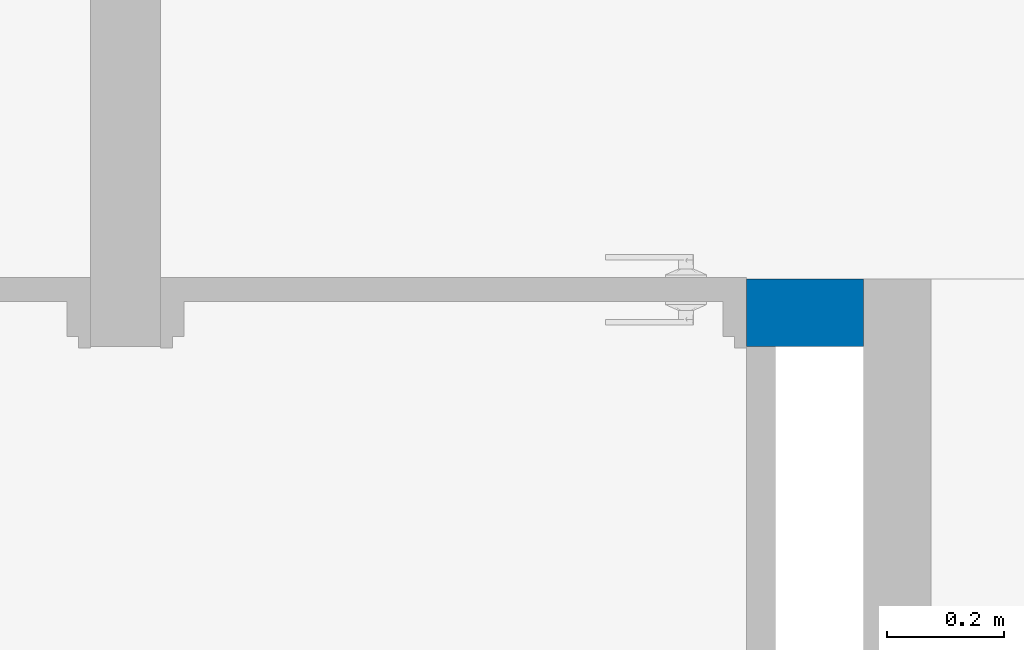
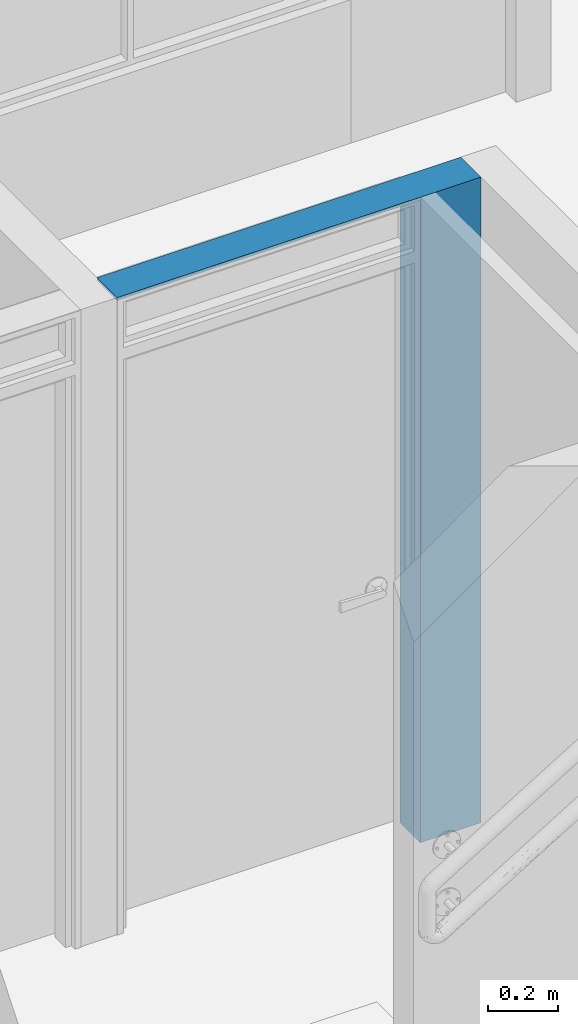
# One storey, part 34 of 51: 1 wall, 1 opening.
"""IFC4 building model written with IfcOpenShell, lengths in metres."""

import ifcopenshell
import ifcopenshell.guid

model = None  # the IFC model being written
_history = None  # IfcOwnerHistory: only IFC2X3 demands one
_inside = {}  # id of a spatial element -> (the spatial element, [elements in it])
_under = {}  # id of a project, library or spatial element -> (it, [spatial elements below it])
_declared = {}  # id of a project -> (the project, [libraries it declares])
_typed = {}  # id of a type object -> (the type object, [elements of that type])
_made_of = {}  # id of a material, layer set ... -> (it, [elements and type objects made of it])


def new_model(schema):
    """Start an empty IFC model of exactly this schema.

    Asked for "IFC4X3", IfcOpenShell would pick the latest addendum, in which some entities
    have other attributes; the version numbers below select the first issue.
    IFC2X3 requires an IfcOwnerHistory on every rooted entity: one is made here for all.
    """
    global model, _history
    if schema == "IFC4X3":
        model = ifcopenshell.file(schema_version=(4, 3, 0, 0))
    else:
        model = ifcopenshell.file(schema=schema)
    _inside.clear()
    _under.clear()
    _declared.clear()
    _typed.clear()
    _made_of.clear()
    _history = None
    if model.schema == "IFC2X3":
        org = make("IfcOrganization", Name="unknown")
        user = make(
            "IfcPersonAndOrganization",
            ThePerson=make("IfcPerson", FamilyName="unknown"),
            TheOrganization=org,
        )
        app = make(
            "IfcApplication",
            ApplicationDeveloper=org,
            Version="unknown",
            ApplicationFullName="unknown",
            ApplicationIdentifier="unknown",
        )
        _history = make(
            "IfcOwnerHistory",
            OwningUser=user,
            OwningApplication=app,
            ChangeAction="ADDED",
            CreationDate=0,
        )
    return model


def make(cls, **values):
    """One entity of the class cls with the attributes given. An attribute that is None is left unset."""
    return model.create_entity(
        cls, **{name: value for name, value in values.items() if value is not None}
    )


def entity(cls, *values):
    """Any entity or typed value of the class cls, its attributes in the order of the schema. None: left unset."""
    e = model.create_entity(cls)
    for i, value in enumerate(values):
        if value is not None:
            e[i] = value
    return e


def rooted(cls, **values):
    """An entity with a GlobalId (a new one), such as an element, a storey or a relation."""
    return make(cls, GlobalId=ifcopenshell.guid.new(), OwnerHistory=_history, **values)


def si_unit(unit_type, name, prefix=None):
    """IfcSIUnit, for example si_unit("LENGTHUNIT", "METRE", prefix="MILLI")."""
    return make("IfcSIUnit", UnitType=unit_type, Prefix=prefix, Name=name)


def converted_unit(unit_type, name, factor, base, dimensions=None, offset=None):
    """IfcConversionBasedUnit, such as the inch: factor (a typed value) times the base unit."""
    return make(
        "IfcConversionBasedUnit"
        if offset is None
        else "IfcConversionBasedUnitWithOffset",
        ConversionOffset=offset,
        Dimensions=None
        if dimensions is None
        else entity("IfcDimensionalExponents", *dimensions),
        UnitType=unit_type,
        Name=name,
        ConversionFactor=make(
            "IfcMeasureWithUnit", ValueComponent=factor, UnitComponent=base
        ),
    )


def derived_unit(unit_type, elements):
    """IfcDerivedUnit: a product of units, each with its exponent."""
    return make(
        "IfcDerivedUnit",
        Elements=[
            make("IfcDerivedUnitElement", Unit=unit, Exponent=power)
            for unit, power in elements
        ],
        UnitType=unit_type,
    )


def assignment(units):
    """IfcUnitAssignment: the units of a project."""
    return None if units is None else make("IfcUnitAssignment", Units=units)


def point(xyz):
    """IfcCartesianPoint."""
    return None if xyz is None else make("IfcCartesianPoint", Coordinates=xyz)


def direction(xyz):
    """IfcDirection."""
    return None if xyz is None else make("IfcDirection", DirectionRatios=xyz)


def frame(location, z_axis=None, x_axis=None):
    """IfcAxis2Placement3D, a coordinate frame: its origin and axes. An axis left out is left unset."""
    return make(
        "IfcAxis2Placement3D",
        Location=point(location),
        Axis=direction(z_axis),
        RefDirection=direction(x_axis),
    )


def origin():
    """The frame at (0, 0, 0) with its axes left unset."""
    return frame((0.0, 0.0, 0.0))


def place(relative_to, where):
    """IfcLocalPlacement: puts the frame where relative to a parent placement (None: the world)."""
    return make(
        "IfcLocalPlacement", PlacementRelTo=relative_to, RelativePlacement=where
    )


def context(
    kind, dimensions, precision=None, world=None, true_north=None, identifier=None
):
    """IfcGeometricRepresentationContext, for example the 3D "Model" context."""
    return make(
        "IfcGeometricRepresentationContext",
        ContextIdentifier=identifier,
        ContextType=kind,
        CoordinateSpaceDimension=dimensions,
        Precision=precision,
        WorldCoordinateSystem=world,
        TrueNorth=true_north,
    )


def subcontext(parent, identifier, kind, view, scale=None):
    """IfcGeometricRepresentationSubContext, for example "Body" below "Model"."""
    return make(
        "IfcGeometricRepresentationSubContext",
        ContextIdentifier=identifier,
        ContextType=kind,
        ParentContext=parent,
        TargetScale=scale,
        TargetView=view,
    )


def project(units=None, contexts=None):
    """IfcProject with its units and contexts."""
    return rooted(
        "IfcProject",
        Name="project",
        RepresentationContexts=contexts,
        UnitsInContext=assignment(units),
    )


def spatial(cls, under=None, at=None, **own):
    """A site, building, storey or space (cls), placed at a placement, below another one or the project."""
    s = rooted(cls, ObjectPlacement=at, **own)
    if under is not None:
        _under.setdefault(under.id(), (under, []))[1].append(s)
    return s


def point_list(points):
    """IfcCartesianPointList2D or 3D."""
    cls = (
        "IfcCartesianPointList2D" if len(points[0]) == 2 else "IfcCartesianPointList3D"
    )
    return make(cls, CoordList=points)


def indexed_curve(points, segments=None, self_intersect=None):
    """IfcIndexedPolyCurve: lines and arcs through numbered points (the first is 1)."""
    return make(
        "IfcIndexedPolyCurve",
        Points=point_list(points),
        Segments=segments,
        SelfIntersect=self_intersect,
    )


def outline(outer, holes=None, kind="AREA"):
    """IfcArbitraryClosedProfileDef: a profile drawn as a closed curve; with holes, ...WithVoids."""
    if holes is None:
        return make("IfcArbitraryClosedProfileDef", ProfileType=kind, OuterCurve=outer)
    return make(
        "IfcArbitraryProfileDefWithVoids",
        ProfileType=kind,
        OuterCurve=outer,
        InnerCurves=holes,
    )


def extrude(swept, where, along, depth):
    """IfcExtrudedAreaSolid: the profile swept, set in the frame where, extruded along a direction by depth."""
    return make(
        "IfcExtrudedAreaSolid",
        SweptArea=swept,
        Position=where,
        ExtrudedDirection=direction(along),
        Depth=depth,
    )


def polygons(points, faces, closed=None, point_numbers=None):
    """IfcPolygonalFaceSet: a face is its outer loop, then its inner loops; points numbered from 1."""
    made = []
    for loops in faces:
        if len(loops) == 1:
            made.append(make("IfcIndexedPolygonalFace", CoordIndex=loops[0]))
        else:
            made.append(
                make(
                    "IfcIndexedPolygonalFaceWithVoids",
                    CoordIndex=loops[0],
                    InnerCoordIndices=loops[1:],
                )
            )
    return make(
        "IfcPolygonalFaceSet",
        Coordinates=point_list(points),
        Closed=closed,
        Faces=made,
        PnIndex=point_numbers,
    )


def shape(context_of_items, identifier, shape_type, items):
    """IfcShapeRepresentation: the items that make up one representation, for example the "Body"."""
    return make(
        "IfcShapeRepresentation",
        ContextOfItems=context_of_items,
        RepresentationIdentifier=identifier,
        RepresentationType=shape_type,
        Items=items,
    )


def material(Name=None, Category=None):
    """IfcMaterial."""
    return make("IfcMaterial", Name=Name, Category=Category)


def made_of(thing, what):
    """Note that an element or type object is made of a material, layer set ...; save() writes the relation."""
    if what is not None:
        _made_of.setdefault(what.id(), (what, []))[1].append(thing)
    return thing


def type_object(cls, material=None, **own):
    """A type object (cls), such as IfcWallType, which elements share."""
    return made_of(rooted(cls, **own), material)


def element(
    cls,
    number,
    at=None,
    inside=None,
    cuts=None,
    type_object=None,
    material=None,
    context=None,
    identifier="Body",
    shape_type=None,
    held_by="IfcProductDefinitionShape",
    body=None,
    shapes=None,
    **own,
):
    """One element of the class cls, such as IfcWall. Its Tag is "e" and its number.

    at: its placement. inside: the storey or other place that contains it. cuts: it is an
    opening in that element (IfcRelVoidsElement). A single representation is given by context,
    identifier, shape_type and body (its items); several are given by shapes. held_by: the class
    of the entity that holds the representations. save() writes the other relations.
    """
    e = rooted(cls, Tag="e%d" % number, ObjectPlacement=at, **own)
    if body is not None:
        shapes = [shape(context, identifier, shape_type, body)]
    if shapes is not None:
        e.Representation = make(held_by, Representations=shapes)
    if inside is not None:
        _inside.setdefault(inside.id(), (inside, []))[1].append(e)
    if cuts is not None:
        rooted(
            "IfcRelVoidsElement", RelatingBuildingElement=cuts, RelatedOpeningElement=e
        )
    if type_object is not None:
        _typed.setdefault(type_object.id(), (type_object, []))[1].append(e)
    return made_of(e, material)


def aggregate(whole, parts):
    """IfcRelAggregates: a whole, such as a stair, and the parts it consists of."""
    return rooted("IfcRelAggregates", RelatingObject=whole, RelatedObjects=parts)


def save(model, path):
    """Write the relations noted so far, then the file.

    IfcRelAggregates (storeys below a building ...), IfcRelContainedInSpatialStructure (elements
    in a storey), IfcRelDefinesByType, IfcRelAssociatesMaterial and IfcRelDeclares: one each for
    every whole, place, type object, material and project.
    """
    for whole, parts in _under.values():
        aggregate(whole, parts)
    for where, things in _inside.values():
        rooted(
            "IfcRelContainedInSpatialStructure",
            RelatedElements=things,
            RelatingStructure=where,
        )
    for kind, things in _typed.values():
        rooted("IfcRelDefinesByType", RelatedObjects=things, RelatingType=kind)
    for what, things in _made_of.values():
        rooted("IfcRelAssociatesMaterial", RelatedObjects=things, RelatingMaterial=what)
    for by, libraries in _declared.values():
        rooted("IfcRelDeclares", RelatingContext=by, RelatedDefinitions=libraries)
    model.write(path)


model = new_model("IFC4")

# Units and contexts
model_context = context("Model", 3, precision=1e-05, world=origin(), true_north=direction((6.123031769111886e-17, 1.0)))
body_context = subcontext(model_context, "Body", "Model", "MODEL_VIEW")
ifc_project = project(units=[si_unit("LENGTHUNIT", "METRE"), si_unit("AREAUNIT", "SQUARE_METRE"), si_unit("VOLUMEUNIT", "CUBIC_METRE"), converted_unit("PLANEANGLEUNIT", "DEGREE", entity("IfcRatioMeasure", 0.017453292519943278), si_unit("PLANEANGLEUNIT", "RADIAN"), dimensions=[0, 0, 0, 0, 0, 0, 0]), si_unit("MASSUNIT", "GRAM", prefix="KILO"), derived_unit("MASSDENSITYUNIT", [(si_unit("MASSUNIT", "GRAM", prefix="KILO"), 1), (si_unit("LENGTHUNIT", "METRE"), -3)]), derived_unit("IONCONCENTRATIONUNIT", [(si_unit("MASSUNIT", "GRAM", prefix="KILO"), 1), (si_unit("LENGTHUNIT", "METRE"), -3)]), derived_unit("MOMENTOFINERTIAUNIT", [(si_unit("LENGTHUNIT", "METRE"), 4)]), si_unit("TIMEUNIT", "SECOND"), si_unit("FREQUENCYUNIT", "HERTZ"), si_unit("THERMODYNAMICTEMPERATUREUNIT", "DEGREE_CELSIUS"), derived_unit("THERMALTRANSMITTANCEUNIT", [(si_unit("MASSUNIT", "GRAM", prefix="KILO"), 1), (si_unit("THERMODYNAMICTEMPERATUREUNIT", "KELVIN"), -1), (si_unit("TIMEUNIT", "SECOND"), -3)]), derived_unit("THERMALCONDUCTANCEUNIT", [(si_unit("MASSUNIT", "GRAM", prefix="KILO"), 1), (si_unit("THERMODYNAMICTEMPERATUREUNIT", "KELVIN"), -1), (si_unit("TIMEUNIT", "SECOND"), -3), (si_unit("LENGTHUNIT", "METRE"), 1)]), derived_unit("VOLUMETRICFLOWRATEUNIT", [(si_unit("LENGTHUNIT", "METRE"), 3), (si_unit("TIMEUNIT", "SECOND"), -1)]), derived_unit("MASSFLOWRATEUNIT", [(si_unit("MASSUNIT", "GRAM", prefix="KILO"), 1), (si_unit("TIMEUNIT", "SECOND"), -1)]), derived_unit("ROTATIONALFREQUENCYUNIT", [(si_unit("TIMEUNIT", "SECOND"), -1)]), si_unit("ELECTRICCURRENTUNIT", "AMPERE"), si_unit("ELECTRICVOLTAGEUNIT", "VOLT"), si_unit("POWERUNIT", "WATT"), si_unit("FORCEUNIT", "NEWTON", prefix="KILO"), si_unit("ILLUMINANCEUNIT", "LUX"), si_unit("LUMINOUSFLUXUNIT", "LUMEN"), si_unit("LUMINOUSINTENSITYUNIT", "CANDELA"), derived_unit("USERDEFINED", [(si_unit("MASSUNIT", "GRAM", prefix="KILO"), -1), (si_unit("LENGTHUNIT", "METRE"), -2), (si_unit("TIMEUNIT", "SECOND"), 3), (si_unit("LUMINOUSFLUXUNIT", "LUMEN"), 1)]), derived_unit("USERDEFINED", [(si_unit("MASSUNIT", "GRAM", prefix="KILO"), 1), (si_unit("TIMEUNIT", "SECOND"), -3), (si_unit("LENGTHUNIT", "METRE"), 3), (si_unit("ELECTRICCURRENTUNIT", "AMPERE"), -2)]), derived_unit("SOUNDPOWERUNIT", [(si_unit("MASSUNIT", "GRAM", prefix="KILO"), 1), (si_unit("TIMEUNIT", "SECOND"), -3), (si_unit("LENGTHUNIT", "METRE"), 2)]), derived_unit("SOUNDPRESSUREUNIT", [(si_unit("MASSUNIT", "GRAM", prefix="KILO"), 1), (si_unit("LENGTHUNIT", "METRE"), -1), (si_unit("TIMEUNIT", "SECOND"), -2)]), derived_unit("LINEARVELOCITYUNIT", [(si_unit("LENGTHUNIT", "METRE"), 1), (si_unit("TIMEUNIT", "SECOND"), -1)]), si_unit("PRESSUREUNIT", "PASCAL"), derived_unit("USERDEFINED", [(si_unit("MASSUNIT", "GRAM", prefix="KILO"), 1), (si_unit("LENGTHUNIT", "METRE"), -2), (si_unit("TIMEUNIT", "SECOND"), -2)]), derived_unit("LINEARFORCEUNIT", [(si_unit("MASSUNIT", "GRAM", prefix="KILO"), 1), (si_unit("TIMEUNIT", "SECOND"), -2)]), derived_unit("PLANARFORCEUNIT", [(si_unit("MASSUNIT", "GRAM", prefix="KILO"), 1), (si_unit("LENGTHUNIT", "METRE"), -1), (si_unit("TIMEUNIT", "SECOND"), -2)]), derived_unit("SPECIFICHEATCAPACITYUNIT", [(si_unit("THERMODYNAMICTEMPERATUREUNIT", "KELVIN"), -1), (si_unit("LENGTHUNIT", "METRE"), 2), (si_unit("TIMEUNIT", "SECOND"), -2)]), derived_unit("HEATINGVALUEUNIT", [(si_unit("LENGTHUNIT", "METRE"), 2), (si_unit("TIMEUNIT", "SECOND"), -2)]), derived_unit("VAPORPERMEABILITYUNIT", [(si_unit("LENGTHUNIT", "METRE"), -1), (si_unit("TIMEUNIT", "SECOND"), 1)]), derived_unit("DYNAMICVISCOSITYUNIT", [(si_unit("MASSUNIT", "GRAM", prefix="KILO"), 1), (si_unit("TIMEUNIT", "SECOND"), -1), (si_unit("LENGTHUNIT", "METRE"), -1)]), derived_unit("THERMALEXPANSIONCOEFFICIENTUNIT", [(si_unit("THERMODYNAMICTEMPERATUREUNIT", "KELVIN"), -1)]), derived_unit("MODULUSOFELASTICITYUNIT", [(si_unit("MASSUNIT", "GRAM", prefix="KILO"), 1), (si_unit("LENGTHUNIT", "METRE"), -1), (si_unit("TIMEUNIT", "SECOND"), -2)]), derived_unit("ISOTHERMALMOISTURECAPACITYUNIT", [(si_unit("LENGTHUNIT", "METRE"), 3), (si_unit("MASSUNIT", "GRAM", prefix="KILO"), -1)]), derived_unit("MOISTUREDIFFUSIVITYUNIT", [(si_unit("TIMEUNIT", "SECOND"), -1), (si_unit("LENGTHUNIT", "METRE"), 2)])], contexts=[model_context])

# Site, building, storey
site_placement = place(None, origin())
site = spatial("IfcSite", under=ifc_project, at=site_placement, Name="Default", CompositionType="ELEMENT")
building_placement = place(site_placement, origin())
building = spatial("IfcBuilding", under=site, at=building_placement, CompositionType="ELEMENT")
storey_placement = place(building_placement, frame((0.0, 0.0, 2.350000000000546)))
storey = spatial("IfcBuildingStorey", under=building, at=storey_placement, Name="Nivel 2", CompositionType="ELEMENT", Elevation=2.350000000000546)

# Wall, opening
ifc_material = material(Name="LADRILLO CLARO", Category="Materials")
wall_type = type_object("IfcWallType", Name="Basic Wall:B2010 - 0.115m - MI mampostería no estructural - Ladrillo", PredefinedType="STANDARD")
wall_placement = place(storey_placement, frame((10.582499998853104, -3.7675000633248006, 0.0), z_axis=(0.0, 0.0, 1.0), x_axis=(-1.0, 0.0, 0.0)))
wall = element("IfcWall", 1, at=wall_placement, inside=storey, type_object=wall_type, material=ifc_material, Name="Basic Wall:B2010 - 0.115m - MI mampostería no estructural - Ladrillo", ObjectType="Basic Wall:B2010 - 0.115m - MI mampostería no estructural - Ladrillo", PredefinedType="NOTDEFINED", context=body_context, shape_type="Tessellation", body=[
    polygons([(1.1999999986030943, -0.057499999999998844, 2.2499999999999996), (1.4790461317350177e-15, -0.05750000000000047, 2.2499999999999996), (1.4790461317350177e-15, -0.05750000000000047, 0.0), (0.1999999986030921, -0.057499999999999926, 0.0), (0.1999999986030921, -0.057499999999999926, 2.2399999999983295), (1.1999999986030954, -0.057499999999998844, 2.2399999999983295), (1.7438010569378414e-15, 0.057499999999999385, 2.2499999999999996), (0.14999999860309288, 0.057499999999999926, 2.2499999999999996), (0.19999999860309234, 0.057499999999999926, 2.2499999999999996), (1.1999999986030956, 0.05750000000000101, 2.2499999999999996), (1.1999999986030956, 0.05750000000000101, 2.2399999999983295), (0.1999999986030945, 0.057499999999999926, 2.2399999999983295), (0.19999999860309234, 0.057499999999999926, 0.0), (0.14999999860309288, 0.057499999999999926, 0.0), (1.7438010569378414e-15, 0.057499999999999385, 0.0)], [[[1, 2, 3, 4, 5, 6]], [[7, 8, 9, 10, 11, 12, 13, 14, 15]], [[3, 15, 14, 13, 4]], [[10, 1, 6, 11]], [[2, 1, 10, 9, 8, 7]], [[3, 2, 7, 15]], [[12, 5, 4, 13]], [[5, 12, 11, 6]]], closed=True),
])
opening_placement = place(wall_placement, frame((1.1999999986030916, 0.057499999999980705, 0.0)))
element("IfcOpeningElement", 2, at=opening_placement, cuts=wall, Name="C1030 - Puerta batiente - Madera + Metal:C1030 - 1.00 x 2.24 - Puerta batiente - Madera:1", PredefinedType="OPENING", context=body_context, shape_type="SweptSolid", body=[
    extrude(outline(indexed_curve([(0.0, 0.999999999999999), (0.0, -6.869410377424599e-30), (2.2399999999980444, -6.869410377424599e-30), (2.2399999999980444, 0.999999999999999), (0.0, 0.999999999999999)], self_intersect=False)), frame((0.0, 0.0, 0.0), z_axis=(0.0, -1.0, 0.0), x_axis=(0.0, 0.0, 1.0)), (0.0, 0.0, 1.0), 0.115),
])

save(model, "model.ifc")
